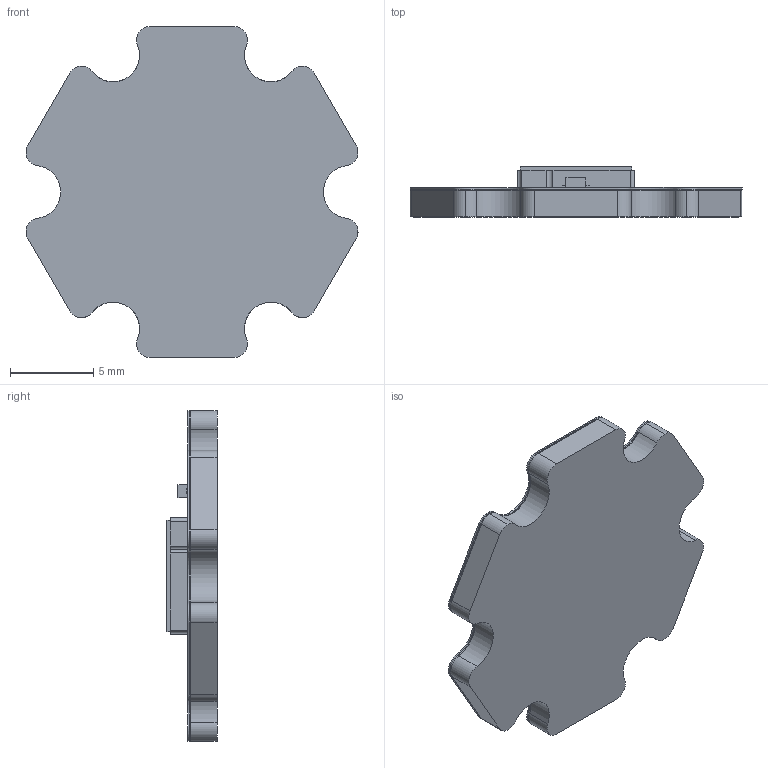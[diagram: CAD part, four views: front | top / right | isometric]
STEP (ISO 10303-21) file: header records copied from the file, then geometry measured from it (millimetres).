
FILE_DESCRIPTION (( 'STEP AP214' ), '1' );
FILE_NAME ('LZ4-44UV00-P3_RevC3.STEP', '2015-12-01T01:23:56', ( '' ), ( '' ), 'SwSTEP 2.0', 'SolidWorks 2014', '' );
FILE_SCHEMA (( 'AUTOMOTIVE_DESIGN' ));
Length unit declared in the file: millimetre
Products named in the file (4): BZX585 zener esd SOD523_cpy_07-10-14_BZX585-C30; LZ4-04UV00-P3_PART_RevC3_cpy_11-30-15; 1900-0082-BGQ; LZ4-44UV00-P3_RevC3
Assembly tree (3 placements, depth 2):
  LZ4-44UV00-P3_RevC3
    1900-0082-BGQ
    LZ4-04UV00-P3_PART_RevC3_cpy_11-30-15
    BZX585 zener esd SOD523_cpy_07-10-14_BZX585-C30
Bounding box: 19.96 x 3.01 x 19.9 mm (x, y, z)
Volume: 544.4 mm3; surface area: 2209.8 mm2
Topology: 37 solids, 37 shells, 719 faces, 1923 edges, 1282 vertices
Faces by surface type: plane 474, cylinder 172, bspline 71, cone 2
Entity records: 34058 total; most frequent: CARTESIAN_POINT 8073, ORIENTED_EDGE 3846, DIRECTION 3437, EDGE_CURVE 1923, LINE 1433, VECTOR 1433, VERTEX_POINT 1282, AXIS2_PLACEMENT_3D 1002
